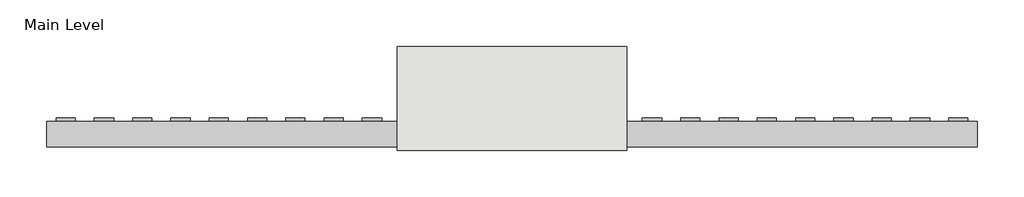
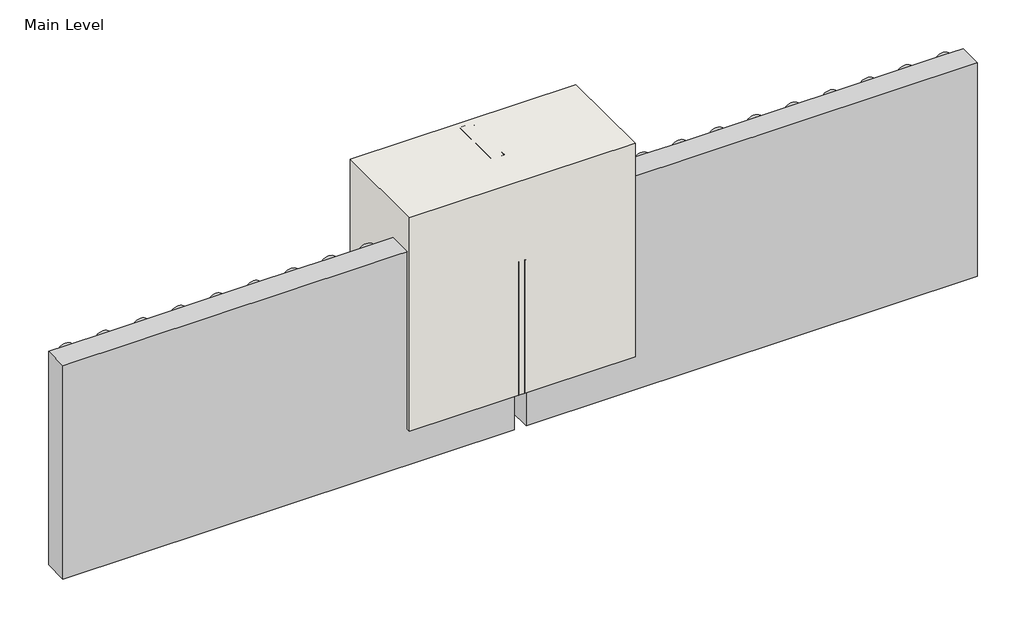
# One storey, incomplete: 14 proxies, 1 wall.
"""IFC4 building model written with IfcOpenShell, lengths in millimetres."""

from ifc_helpers import new_model, si_unit, origin, origin_with_axes, place, context, project, spatial, polyline, outline, extrude, transform, mapped, element, save
from components import generic_models_0ed8512b, generic_models_38adcc71, generic_models_03ec6e0e, proxy_46de1dcf, proxy_50213ae0, proxy_5fc139d0, finish_coat_valley_finish_coat_valley_b212d677, proxy_d4c17246

model = new_model("IFC4")

# Units and contexts
model_context = context("Model", 3, world=origin())
ifc_project = project(units=[si_unit("LENGTHUNIT", "METRE", prefix="MILLI")], contexts=[model_context])

# Site, building, storey
site = spatial("IfcSite", under=ifc_project)
building = spatial("IfcBuilding", under=site)
storey = spatial("IfcBuildingStorey", under=building, Name="Main Level", Elevation=0.0)

# Proxies
placement = place(None, origin())
generic_models_shape = generic_models_0ed8512b(model_context)
element("IfcBuildingElementProxy", 1, Name="Durabond Generic Model Insulation Adhesive Flat : Durabond Generic Model Insulation Adhesive Flat", ObjectType="Durabond Generic Model Insulation Adhesive Flat : Durabond Generic Model Insulation Adhesive Flat", at=placement, inside=storey, context=model_context, shape_type="MappedRepresentation", body=[
    mapped(generic_models_shape, transform((26758.2539273, 627.6316297, 0.0), x_axis=(1.0, 0.0, 0.0), y_axis=(0.0, 1.0, 0.0), z_axis=(0.0, 0.0, 1.0))),
])
element("IfcBuildingElementProxy", 2, Name="Durabond Generic Model Insulation Adhesive Flat : Durabond Generic Model Insulation Adhesive Flat", ObjectType="Durabond Generic Model Insulation Adhesive Flat : Durabond Generic Model Insulation Adhesive Flat", at=placement, inside=storey, context=model_context, shape_type="MappedRepresentation", body=[
    mapped(generic_models_shape, transform((26891.6039273, 627.6316297, 0.0), x_axis=(1.0, 0.0, 0.0), y_axis=(0.0, 1.0, 0.0), z_axis=(0.0, 0.0, 1.0))),
])
element("IfcBuildingElementProxy", 3, Name="Durabond Generic Model Insulation Adhesive Flat : Durabond Generic Model Insulation Adhesive Flat", ObjectType="Durabond Generic Model Insulation Adhesive Flat : Durabond Generic Model Insulation Adhesive Flat", at=placement, inside=storey, context=model_context, shape_type="MappedRepresentation", body=[
    mapped(generic_models_shape, transform((26656.6539273, 627.6316297, 0.0), x_axis=(1.0, 0.0, 0.0), y_axis=(0.0, 1.0, 0.0), z_axis=(0.0, 0.0, 1.0))),
])
element("IfcBuildingElementProxy", 4, Name="Durabond Generic Model Insulation Adhesive Flat : Durabond Generic Model Insulation Adhesive Flat", ObjectType="Durabond Generic Model Insulation Adhesive Flat : Durabond Generic Model Insulation Adhesive Flat", at=placement, inside=storey, context=model_context, shape_type="MappedRepresentation", body=[
    mapped(generic_models_shape, transform((26555.0539273, 627.6316297, 0.0), x_axis=(1.0, 0.0, 0.0), y_axis=(0.0, 1.0, 0.0), z_axis=(0.0, 0.0, 1.0))),
])
element("IfcBuildingElementProxy", 5, Name="Durabond Generic Model Insulation Adhesive Flat : Durabond Generic Model Insulation Adhesive Flat", ObjectType="Durabond Generic Model Insulation Adhesive Flat : Durabond Generic Model Insulation Adhesive Flat", at=placement, inside=storey, context=model_context, shape_type="MappedRepresentation", body=[
    mapped(generic_models_shape, transform((26993.2039273, 627.6316297, 0.0), x_axis=(1.0, 0.0, 0.0), y_axis=(0.0, 1.0, 0.0), z_axis=(0.0, 0.0, 1.0))),
])
element("IfcBuildingElementProxy", 6, Name="Durabond Generic Model Insulation Adhesive Flat : Durabond Generic Model Insulation Adhesive Flat", ObjectType="Durabond Generic Model Insulation Adhesive Flat : Durabond Generic Model Insulation Adhesive Flat", at=placement, inside=storey, context=model_context, shape_type="MappedRepresentation", body=[
    mapped(generic_models_shape, transform((27094.8039273, 627.6316297, 0.0), x_axis=(1.0, 0.0, 0.0), y_axis=(0.0, 1.0, 0.0), z_axis=(0.0, 0.0, 1.0))),
])
generic_models_2_shape = generic_models_38adcc71(model_context)
element("IfcBuildingElementProxy", 7, Name="CRAi Generic Model Backer Rod and Sealant : CRAi Generic Model Backer Rod and Sealant", ObjectType="CRAi Generic Model Backer Rod and Sealant : CRAi Generic Model Backer Rod and Sealant", at=placement, inside=storey, context=model_context, shape_type="MappedRepresentation", body=[
    mapped(generic_models_2_shape, transform((26824.9289273, 570.4816297, 0.0), x_axis=(1.0, 0.0, 0.0), y_axis=(0.0, 1.0, 0.0), z_axis=(0.0, 0.0, 1.0))),
])
generic_models_3_shape = generic_models_03ec6e0e(model_context)
element("IfcBuildingElementProxy", 8, Name="CRAi Generic Model Drywall Screw : CRAi Generic Model Drywall Screw", ObjectType="CRAi Generic Model Drywall Screw : CRAi Generic Model Drywall Screw", at=placement, inside=storey, context=model_context, shape_type="MappedRepresentation", body=[
    mapped(generic_models_3_shape, transform((26834.4539273, 633.9816297, 584.2), x_axis=(1.0, 0.0, 0.0), y_axis=(0.0, 0.0, 1.0), z_axis=(0.0, -1.0, 0.0))),
])
element("IfcBuildingElementProxy", 9, Name="CRAi Generic Model Drywall Screw : CRAi Generic Model Drywall Screw", ObjectType="CRAi Generic Model Drywall Screw : CRAi Generic Model Drywall Screw", at=placement, inside=storey, context=model_context, shape_type="MappedRepresentation", body=[
    mapped(generic_models_3_shape, transform((26815.4039273, 633.9816297, 584.2), x_axis=(1.0, 0.0, 0.0), y_axis=(0.0, 0.0, 1.0), z_axis=(0.0, -1.0, 0.0))),
])
proxy_shape = proxy_46de1dcf(model_context)
element("IfcBuildingElementProxy", 10, Name="Durabond Generic Model Quantum Select 5-0 Insulation Board : 3\"", ObjectType="Durabond Generic Model Quantum Select 5-0 Insulation Board : 3\"", at=placement, inside=storey, context=model_context, shape_type="MappedRepresentation", body=[
    mapped(proxy_shape, transform((27450.4039273, 624.4566297, 203.2), x_axis=(-1.0, 0.0, 0.0), y_axis=(0.0, 0.0, -1.0), z_axis=(0.0, -1.0, 0.0))),
])
proxy_2_shape = proxy_50213ae0(model_context)
element("IfcBuildingElementProxy", 11, Name="Durabond Generic Model Quantum Select 5-0 Insulation Board : 3\"", ObjectType="Durabond Generic Model Quantum Select 5-0 Insulation Board : 3\"", at=placement, inside=storey, context=model_context, shape_type="MappedRepresentation", body=[
    mapped(proxy_2_shape, transform((26199.4539273, 624.4566297, 203.2), x_axis=(1.0, 0.0, 0.0), y_axis=(0.0, 0.0, 1.0), z_axis=(0.0, -1.0, 0.0))),
])
proxy_3_shape = proxy_5fc139d0(model_context)
element("IfcBuildingElementProxy", 12, Name="Durabond Generic Model Barrier Seam Tape Straight : 4\" Barrier Seam Tape", ObjectType="Durabond Generic Model Barrier Seam Tape Straight : 4\" Barrier Seam Tape", at=placement, inside=storey, context=model_context, shape_type="MappedRepresentation", body=[
    mapped(proxy_3_shape, transform((26875.7289273, 633.9816297, 0.0), x_axis=(1.0, 0.0, 0.0), y_axis=(0.0, 1.0, 0.0), z_axis=(0.0, 0.0, 1.0))),
])
finish_coat_valley_finish_coat_valley_shape = finish_coat_valley_finish_coat_valley_b212d677(model_context)
element("IfcBuildingElementProxy", 13, Name="Finish Coat Valley : Finish Coat Valley", ObjectType="Finish Coat Valley : Finish Coat Valley", at=placement, inside=storey, context=model_context, shape_type="MappedRepresentation", body=[
    mapped(finish_coat_valley_finish_coat_valley_shape, transform((0.0, 0.0, 0.0), x_axis=(1.0, 0.0, 0.0), y_axis=(0.0, 1.0, 0.0), z_axis=(0.0, 0.0, 1.0))),
])
proxy_4_shape = proxy_d4c17246(model_context)
element("IfcBuildingElementProxy", 14, Name="CRAi Generic Model Metal Stud : Metal Framing Stud - 1\" x 3.5\"", ObjectType="CRAi Generic Model Metal Stud : Metal Framing Stud - 1\" x 3.5\"", at=placement, inside=storey, context=model_context, shape_type="MappedRepresentation", body=[
    mapped(proxy_4_shape, transform((26824.9289273, 726.0566297, 0.0), x_axis=(1.0, 0.0, 0.0), y_axis=(0.0, 1.0, 0.0), z_axis=(0.0, 0.0, 1.0))),
])

# Wall
element("IfcWall", 15, ObjectType="189mm (7.5”) EIFS Field Applied on Mtl. Stud Layer - 50mm Grooved Insulation Board Metal Stud Wall", at=placement, inside=storey, context=model_context, shape_type="SweptSolid", body=[
    extrude(outline(polyline([(27129.7289273, 538.7316297), (26520.1289273, 538.7316297), (26520.1289273, 814.9566297), (27129.7289273, 814.9566297), (27129.7289273, 538.7316297)])), origin_with_axes(), (0.0, 0.0, 1.0), 609.6),
])

save(model, "model.ifc")
